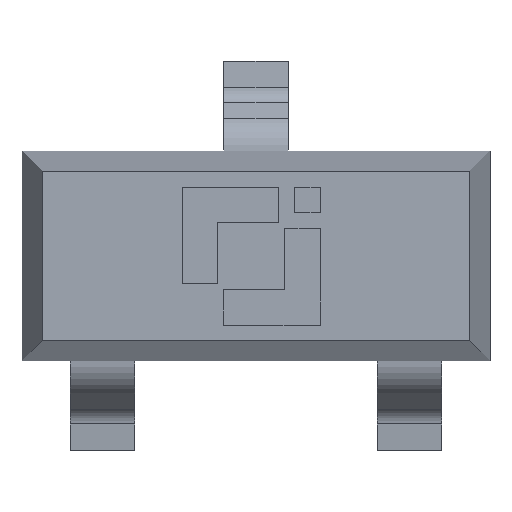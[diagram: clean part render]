
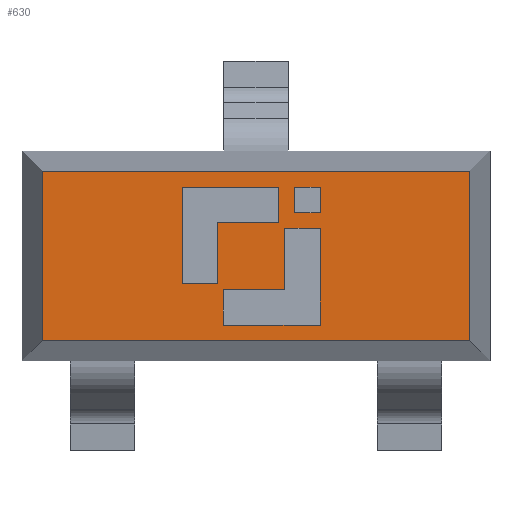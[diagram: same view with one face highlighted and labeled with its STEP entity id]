
A CAD part, top view. The second image highlights one B-rep face of the part: STEP entity #630.
In plain terms, the highlighted planar face has unit normal (0, 0, 1).
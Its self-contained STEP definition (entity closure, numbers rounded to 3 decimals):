
#457=CARTESIAN_POINT('',(0.,0.,0.975));
#458=DIRECTION('',(0.,0.,1.));
#459=DIRECTION('',(1.,0.,0.));
#460=AXIS2_PLACEMENT_3D('',#457,#458,#459);
#461=PLANE('',#460);
#462=CARTESIAN_POINT('',(0.239,0.266,0.975));
#463=VERTEX_POINT('',#462);
#464=CARTESIAN_POINT('',(0.399,0.266,0.975));
#465=VERTEX_POINT('',#464);
#466=CARTESIAN_POINT('',(0.239,0.266,0.975));
#467=DIRECTION('',(1.,0.,-0.));
#468=VECTOR('',#467,0.16);
#469=LINE('',#466,#468);
#470=EDGE_CURVE('',#463,#465,#469,.T.);
#471=ORIENTED_EDGE('',*,*,#470,.F.);
#472=CARTESIAN_POINT('',(0.239,0.426,0.975));
#473=VERTEX_POINT('',#472);
#474=CARTESIAN_POINT('',(0.239,0.426,0.975));
#475=DIRECTION('',(0.,-1.,0.));
#476=VECTOR('',#475,0.16);
#477=LINE('',#474,#476);
#478=EDGE_CURVE('',#473,#463,#477,.T.);
#479=ORIENTED_EDGE('',*,*,#478,.F.);
#480=CARTESIAN_POINT('',(0.399,0.426,0.975));
#481=VERTEX_POINT('',#480);
#482=CARTESIAN_POINT('',(0.399,0.426,0.975));
#483=DIRECTION('',(-1.,0.,0.));
#484=VECTOR('',#483,0.16);
#485=LINE('',#482,#484);
#486=EDGE_CURVE('',#481,#473,#485,.T.);
#487=ORIENTED_EDGE('',*,*,#486,.F.);
#488=CARTESIAN_POINT('',(0.399,0.266,0.975));
#489=DIRECTION('',(0.,1.,0.));
#490=VECTOR('',#489,0.16);
#491=LINE('',#488,#490);
#492=EDGE_CURVE('',#465,#481,#491,.T.);
#493=ORIENTED_EDGE('',*,*,#492,.F.);
#494=EDGE_LOOP('',(#471,#479,#487,#493));
#495=FACE_BOUND('',#494,.T.);
#496=CARTESIAN_POINT('',(1.325,0.525,0.975));
#497=VERTEX_POINT('',#496);
#498=CARTESIAN_POINT('',(-1.325,0.525,0.975));
#499=VERTEX_POINT('',#498);
#500=CARTESIAN_POINT('',(1.325,0.525,0.975));
#501=DIRECTION('',(-1.,-0.,0.));
#502=VECTOR('',#501,2.65);
#503=LINE('',#500,#502);
#504=EDGE_CURVE('',#497,#499,#503,.T.);
#505=ORIENTED_EDGE('',*,*,#504,.T.);
#506=CARTESIAN_POINT('',(-1.325,-0.525,0.975));
#507=VERTEX_POINT('',#506);
#508=CARTESIAN_POINT('',(-1.325,0.525,0.975));
#509=DIRECTION('',(0.,-1.,0.));
#510=VECTOR('',#509,1.05);
#511=LINE('',#508,#510);
#512=EDGE_CURVE('',#499,#507,#511,.T.);
#513=ORIENTED_EDGE('',*,*,#512,.T.);
#514=CARTESIAN_POINT('',(1.325,-0.525,0.975));
#515=VERTEX_POINT('',#514);
#516=CARTESIAN_POINT('',(-1.325,-0.525,0.975));
#517=DIRECTION('',(1.,0.,0.));
#518=VECTOR('',#517,2.65);
#519=LINE('',#516,#518);
#520=EDGE_CURVE('',#507,#515,#519,.T.);
#521=ORIENTED_EDGE('',*,*,#520,.T.);
#522=CARTESIAN_POINT('',(1.325,-0.525,0.975));
#523=DIRECTION('',(-0.,1.,0.));
#524=VECTOR('',#523,1.05);
#525=LINE('',#522,#524);
#526=EDGE_CURVE('',#515,#497,#525,.T.);
#527=ORIENTED_EDGE('',*,*,#526,.T.);
#528=EDGE_LOOP('',(#505,#513,#521,#527));
#529=FACE_BOUND('',#528,.T.);
#530=CARTESIAN_POINT('',(-0.458,0.426,0.975));
#531=VERTEX_POINT('',#530);
#532=CARTESIAN_POINT('',(0.142,0.426,0.975));
#533=VERTEX_POINT('',#532);
#534=CARTESIAN_POINT('',(-0.458,0.426,0.975));
#535=DIRECTION('',(1.,0.,0.));
#536=VECTOR('',#535,0.6);
#537=LINE('',#534,#536);
#538=EDGE_CURVE('',#531,#533,#537,.T.);
#539=ORIENTED_EDGE('',*,*,#538,.T.);
#540=CARTESIAN_POINT('',(0.142,0.206,0.975));
#541=VERTEX_POINT('',#540);
#542=CARTESIAN_POINT('',(0.142,0.426,0.975));
#543=DIRECTION('',(0.,-1.,0.));
#544=VECTOR('',#543,0.22);
#545=LINE('',#542,#544);
#546=EDGE_CURVE('',#533,#541,#545,.T.);
#547=ORIENTED_EDGE('',*,*,#546,.T.);
#548=CARTESIAN_POINT('',(-0.238,0.206,0.975));
#549=VERTEX_POINT('',#548);
#550=CARTESIAN_POINT('',(0.142,0.206,0.975));
#551=DIRECTION('',(-1.,-0.,0.));
#552=VECTOR('',#551,0.38);
#553=LINE('',#550,#552);
#554=EDGE_CURVE('',#541,#549,#553,.T.);
#555=ORIENTED_EDGE('',*,*,#554,.T.);
#556=CARTESIAN_POINT('',(-0.238,-0.174,0.975));
#557=VERTEX_POINT('',#556);
#558=CARTESIAN_POINT('',(-0.238,0.206,0.975));
#559=DIRECTION('',(0.,-1.,0.));
#560=VECTOR('',#559,0.38);
#561=LINE('',#558,#560);
#562=EDGE_CURVE('',#549,#557,#561,.T.);
#563=ORIENTED_EDGE('',*,*,#562,.T.);
#564=CARTESIAN_POINT('',(-0.458,-0.174,0.975));
#565=VERTEX_POINT('',#564);
#566=CARTESIAN_POINT('',(-0.238,-0.174,0.975));
#567=DIRECTION('',(-1.,0.,0.));
#568=VECTOR('',#567,0.22);
#569=LINE('',#566,#568);
#570=EDGE_CURVE('',#557,#565,#569,.T.);
#571=ORIENTED_EDGE('',*,*,#570,.T.);
#572=CARTESIAN_POINT('',(-0.458,-0.174,0.975));
#573=DIRECTION('',(0.,1.,0.));
#574=VECTOR('',#573,0.6);
#575=LINE('',#572,#574);
#576=EDGE_CURVE('',#565,#531,#575,.T.);
#577=ORIENTED_EDGE('',*,*,#576,.T.);
#578=EDGE_LOOP('',(#539,#547,#555,#563,#571,#577));
#579=FACE_BOUND('',#578,.T.);
#580=CARTESIAN_POINT('',(0.179,0.17,0.975));
#581=VERTEX_POINT('',#580);
#582=CARTESIAN_POINT('',(0.399,0.17,0.975));
#583=VERTEX_POINT('',#582);
#584=CARTESIAN_POINT('',(0.179,0.17,0.975));
#585=DIRECTION('',(1.,0.,-0.));
#586=VECTOR('',#585,0.22);
#587=LINE('',#584,#586);
#588=EDGE_CURVE('',#581,#583,#587,.T.);
#589=ORIENTED_EDGE('',*,*,#588,.T.);
#590=CARTESIAN_POINT('',(0.399,-0.43,0.975));
#591=VERTEX_POINT('',#590);
#592=CARTESIAN_POINT('',(0.399,0.17,0.975));
#593=DIRECTION('',(0.,-1.,0.));
#594=VECTOR('',#593,0.6);
#595=LINE('',#592,#594);
#596=EDGE_CURVE('',#583,#591,#595,.T.);
#597=ORIENTED_EDGE('',*,*,#596,.T.);
#598=CARTESIAN_POINT('',(-0.201,-0.43,0.975));
#599=VERTEX_POINT('',#598);
#600=CARTESIAN_POINT('',(0.399,-0.43,0.975));
#601=DIRECTION('',(-1.,0.,0.));
#602=VECTOR('',#601,0.6);
#603=LINE('',#600,#602);
#604=EDGE_CURVE('',#591,#599,#603,.T.);
#605=ORIENTED_EDGE('',*,*,#604,.T.);
#606=CARTESIAN_POINT('',(-0.201,-0.21,0.975));
#607=VERTEX_POINT('',#606);
#608=CARTESIAN_POINT('',(-0.201,-0.43,0.975));
#609=DIRECTION('',(0.,1.,0.));
#610=VECTOR('',#609,0.22);
#611=LINE('',#608,#610);
#612=EDGE_CURVE('',#599,#607,#611,.T.);
#613=ORIENTED_EDGE('',*,*,#612,.T.);
#614=CARTESIAN_POINT('',(0.179,-0.21,0.975));
#615=VERTEX_POINT('',#614);
#616=CARTESIAN_POINT('',(-0.201,-0.21,0.975));
#617=DIRECTION('',(1.,0.,0.));
#618=VECTOR('',#617,0.38);
#619=LINE('',#616,#618);
#620=EDGE_CURVE('',#607,#615,#619,.T.);
#621=ORIENTED_EDGE('',*,*,#620,.T.);
#622=CARTESIAN_POINT('',(0.179,-0.21,0.975));
#623=DIRECTION('',(0.,1.,0.));
#624=VECTOR('',#623,0.38);
#625=LINE('',#622,#624);
#626=EDGE_CURVE('',#615,#581,#625,.T.);
#627=ORIENTED_EDGE('',*,*,#626,.T.);
#628=EDGE_LOOP('',(#589,#597,#605,#613,#621,#627));
#629=FACE_BOUND('',#628,.T.);
#630=ADVANCED_FACE('',(#495,#529,#579,#629),#461,.T.);
